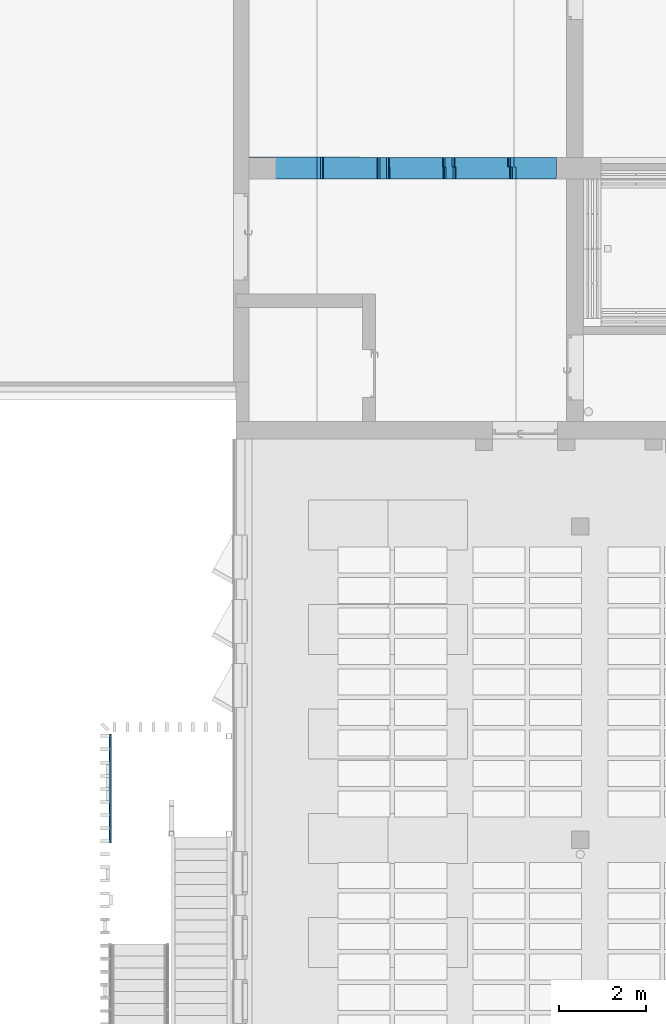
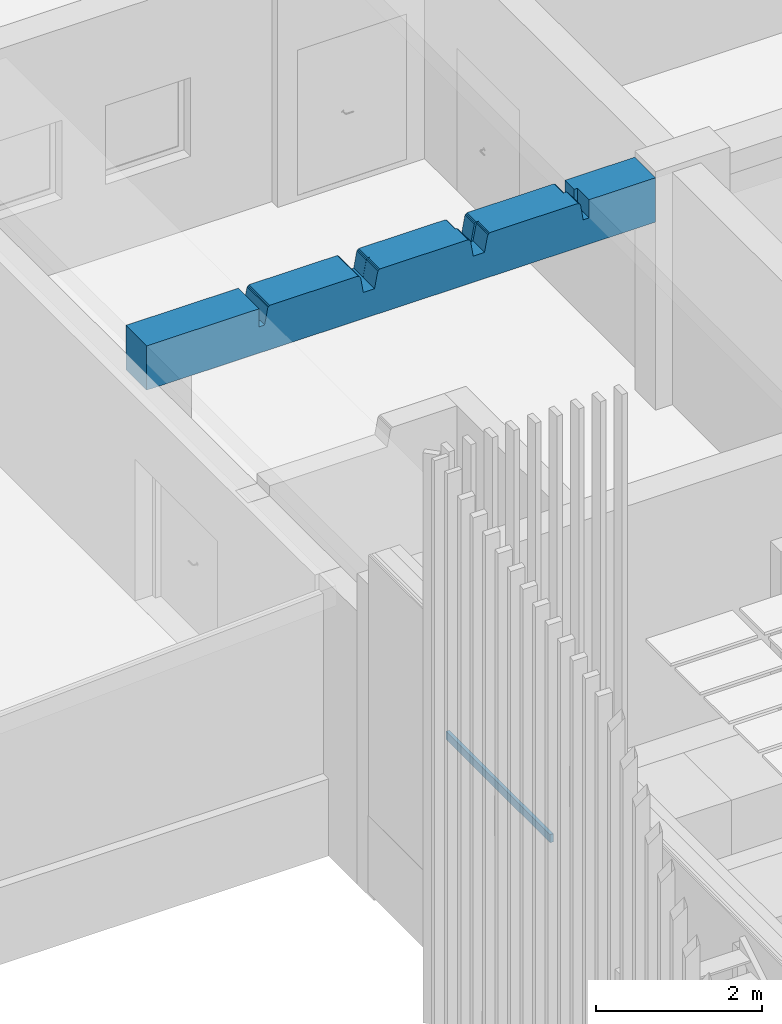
# One storey, part 25 of 301: 2 beams.
"""IFC2X3 building model written with IfcOpenShell, lengths in millimetres."""

from ifc_helpers import new_model, entity, si_unit, converted_unit, derived_unit, money_unit, direction, frame, origin_with_axes, place, context, subcontext, project, spatial, faceted_brep, material, type_object, element, save


model = new_model("IFC2X3")

# Units and contexts
model_context = context("Model", 3, precision=0.01, world=origin_with_axes(), true_north=direction((0.0, 1.0)))
body_context = subcontext(model_context, "Body", "Model", "MODEL_VIEW")
ifc_project = project(units=[si_unit("LENGTHUNIT", "METRE", prefix="MILLI"), si_unit("AREAUNIT", "SQUARE_METRE"), si_unit("VOLUMEUNIT", "CUBIC_METRE"), converted_unit("PLANEANGLEUNIT", "DEGREE", entity("IfcPlaneAngleMeasure", 0.0174532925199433), si_unit("PLANEANGLEUNIT", "RADIAN"), dimensions=[0, 0, 0, 0, 0, 0, 0]), money_unit("EUR"), converted_unit("TIMEUNIT", "Year", entity("IfcTimeMeasure", 31557600.0), si_unit("TIMEUNIT", "SECOND"), dimensions=[0, 0, 1, 0, 0, 0, 0]), si_unit("MASSUNIT", "GRAM", prefix="KILO"), si_unit("THERMODYNAMICTEMPERATUREUNIT", "DEGREE_CELSIUS"), si_unit("LUMINOUSINTENSITYUNIT", "LUMEN"), si_unit("ENERGYUNIT", "JOULE", prefix="MEGA"), derived_unit("THERMALCONDUCTANCEUNIT", [(si_unit("POWERUNIT", "WATT"), 1), (si_unit("LENGTHUNIT", "METRE"), -1), (si_unit("THERMODYNAMICTEMPERATUREUNIT", "KELVIN"), -1)]), derived_unit("SPECIFICHEATCAPACITYUNIT", [(si_unit("ENERGYUNIT", "JOULE"), 1), (si_unit("MASSUNIT", "GRAM", prefix="KILO"), -1), (si_unit("THERMODYNAMICTEMPERATUREUNIT", "KELVIN"), -1)]), derived_unit("MASSDENSITYUNIT", [(si_unit("MASSUNIT", "GRAM", prefix="KILO"), 1), (si_unit("VOLUMEUNIT", "CUBIC_METRE"), -1)])], contexts=[model_context])

# Site, building, storey
site_placement = place(None, frame((0.0, 0.0, 8650.0), z_axis=(0.0, 0.0, 1.0), x_axis=(1.0, 0.0, 0.0)))
site = spatial("IfcSite", under=ifc_project, at=site_placement, Name="43301:001:0844", CompositionType="ELEMENT")
building_placement = place(site_placement, origin_with_axes())
building = spatial("IfcBuilding", under=site, at=building_placement, Name="Kuressaare Ametikooli tuulikute mehaanikute õppekorpus", CompositionType="ELEMENT")
storey_placement = place(building_placement, origin_with_axes())
storey = spatial("IfcBuildingStorey", under=building, at=storey_placement, Name="1.korrus", CompositionType="ELEMENT", Elevation=0.0)

# Beams
ifc_material = material(Name="GENEERILINE - KONSTRUKTRIOON")
beam_type_1 = type_object("IfcBeamType", Name="GENEERILINE - KONSTRUKTRIOON 45 x 120", PredefinedType="NOTDEFINED")
beam_1_placement = place(storey_placement, frame((85046.22662386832, 16502.91808387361, 6497.188198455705), z_axis=(0.0, 0.0, 1.0), x_axis=(1.0, 0.0, 0.0)))
element("IfcBeam", 1, at=beam_1_placement, inside=storey, type_object=beam_type_1, material=ifc_material, Name="Katuslae LP tala", context=body_context, shape_type="Brep", body=[
    faceted_brep([(0.0, 0.0, 0.0), (0.0, 2501.523584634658, 0.0), (45.00000000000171, 2501.523584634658, 0.0), (45.00000000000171, 0.0, 0.0), (0.0, 0.0, 120.0000000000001), (0.0, 2501.523584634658, 120.0000000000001), (45.00000000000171, 2501.523584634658, 120.0000000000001), (45.00000000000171, 0.0, 120.0000000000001)], [[[0, 1, 2, 3]], [[4, 5, 1, 0]], [[2, 1, 5, 6]], [[3, 2, 6, 7]], [[4, 0, 3, 7]], [[7, 6, 5, 4]]]),
])
beam_type_2 = type_object("IfcBeamType", Name="GENEERILINE - KONSTRUKTRIOON 500 x 650", PredefinedType="NOTDEFINED")
beam_2_placement = place(storey_placement, frame((88258.7564468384, 32261.86480873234, 2759.999999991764), z_axis=(0.0, 0.0, 1.0), x_axis=(-0.0009629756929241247, -0.9999995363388, 0.0)))
element("IfcBeam", 2, at=beam_2_placement, inside=storey, type_object=beam_type_2, material=ifc_material, context=body_context, shape_type="Brep", body=[
    faceted_brep([(0.0, 1722.793038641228, 650.0000000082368), (0.0, 1707.57815958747, 647.446023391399), (500.0000000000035, 1708.05964765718, 647.446023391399), (500.0, 1723.274526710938, 650.0000000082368), (0.0, 2951.871632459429, 635.4197032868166), (0.0, 2963.699220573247, 619.641552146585), (0.0, 2969.242431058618, 600.7176357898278), (0.0, 3003.748392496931, 384.9998660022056), (0.0, 3158.545361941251, 384.9998660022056), (0.0, 3199.392768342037, 609.5384224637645), (0.0, 3204.789453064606, 625.7148362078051), (0.0, 3215.574361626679, 638.9241660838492), (0.0, 3230.344252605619, 647.4477253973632), (0.0, 3246.088604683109, 650.0000000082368), (0.0, 4419.069653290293, 650.0000000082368), (0.0, 4437.620198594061, 645.9997277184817), (0.0, 4454.242608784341, 635.2154655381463), (0.0, 4465.950526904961, 619.2301799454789), (0.0, 4471.217025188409, 600.1286460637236), (0.0, 4505.064645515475, 384.9998660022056), (0.0, 4658.794550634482, 384.9998660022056), (0.0, 4699.821777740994, 609.7776392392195), (0.0, 4705.186856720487, 625.6810617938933), (0.0, 4715.762395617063, 638.7141341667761), (0.0, 4730.219885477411, 647.2396297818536), (0.0, 4745.697089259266, 650.0000000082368), (0.0, 5923.60901761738, 650.0000000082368), (0.0, 5942.146731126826, 646.010434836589), (0.0, 5958.77169335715, 635.254400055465), (0.0, 5970.505692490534, 619.3046417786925), (0.0, 5975.825532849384, 600.2316052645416), (0.0, 6009.802231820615, 384.9998660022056), (0.0, 6088.998794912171, 384.9998660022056), (0.0, 6088.998794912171, 650.0000000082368), (0.0, 7057.831064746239, 650.0000000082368), (0.0, 7057.831064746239, 0.0), (0.0, 0.0, 0.0), (0.0, 0.0, 650.0000000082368), (0.0, 1558.996694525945, 650.0000000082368), (0.0, 1558.996694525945, 384.9998660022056), (0.0, 1634.787120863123, 384.9998660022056), (0.0, 1676.634574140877, 611.1866762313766), (0.0, 1682.426857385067, 626.6950206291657), (0.0, 1693.173314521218, 639.2875988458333), (0.0, 2916.804248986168, 650.0000000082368), (0.0, 2935.26196204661, 646.0480083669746), (500.0000000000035, 1693.654802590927, 639.2875988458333), (500.0000000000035, 2952.353120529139, 635.4197032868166), (500.0000000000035, 2935.74345011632, 646.0480083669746), (500.0, 2917.285737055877, 650.0000000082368), (500.0000000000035, 1682.908345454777, 626.6950206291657), (500.0000000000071, 1677.116062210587, 611.1866762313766), (500.0000000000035, 1635.268608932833, 384.9998660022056), (500.0000000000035, 1559.478182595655, 384.9998660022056), (500.0000000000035, 1559.478182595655, 650.0000000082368), (500.0, 0.0, 650.0000000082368), (500.0, 0.0, 0.0), (500.0, 7057.831064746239, 0.0), (500.0, 7057.831064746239, 650.0000000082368), (500.0, 6134.480303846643, 650.0000000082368), (500.0, 6134.480303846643, 384.9998660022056), (500.0000000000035, 6054.231294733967, 384.9998660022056), (500.0, 6019.725333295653, 600.7176357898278), (500.0, 6014.182122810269, 619.641552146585), (500.0, 6002.354534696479, 635.4197032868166), (500.0000000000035, 5985.744864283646, 646.0480083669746), (500.0000000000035, 5967.287151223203, 650.0000000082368), (500.0, 4773.275940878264, 650.0000000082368), (500.0000000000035, 4758.061061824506, 647.446023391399), (500.0000000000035, 4743.656216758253, 639.2875988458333), (500.0000000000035, 4732.909759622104, 626.6950206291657), (500.0, 4727.117476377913, 611.1866762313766), (500.0, 4685.270023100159, 384.9998660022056), (500.0000000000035, 4529.230587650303, 384.9998660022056), (500.0000000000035, 4494.724626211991, 600.7176357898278), (500.0000000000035, 4489.181415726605, 619.641552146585), (500.0000000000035, 4477.353827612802, 635.4197032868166), (500.0, 4460.744157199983, 646.0480083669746), (500.0, 4442.28644413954, 650.0000000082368), (500.0, 3248.275233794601, 650.0000000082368), (500.0000000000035, 3233.060354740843, 647.446023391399), (500.0, 3218.655509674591, 639.2875988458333), (500.0000000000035, 3207.90905253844, 626.6950206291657), (500.0000000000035, 3202.11676929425, 611.1866762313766), (500.0000000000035, 3160.269316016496, 384.9998660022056), (500.0, 3004.229880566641, 384.9998660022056), (500.0, 2969.723919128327, 600.7176357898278), (500.0000000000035, 2964.180708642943, 619.641552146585), (224.4852466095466, 3160.00400188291, 384.9998660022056), (224.4864430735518, 3158.761537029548, 384.9998660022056), (224.4471080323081, 3199.608905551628, 609.5384224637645), (224.4419111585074, 3205.005585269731, 625.7148362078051), (224.4315255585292, 3215.790483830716, 638.9241660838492), (224.4173025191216, 3230.560361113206, 647.4477253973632), (224.4021410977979, 3246.304698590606, 650.0000000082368), (224.4004990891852, 3248.009838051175, 650.0000000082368), (223.2506958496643, 4442.019941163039, 650.0000000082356), (223.2725893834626, 4419.28465946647, 650.0000000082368), (223.2547256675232, 4437.835187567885, 645.9997277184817), (223.2387186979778, 4454.457582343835, 635.2154655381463), (223.2274442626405, 4466.165489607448, 619.2301799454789), (223.2223727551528, 4471.43198300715, 600.1286460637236), (223.1897783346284, 4505.279571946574, 384.9998660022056), (223.1669707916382, 4528.964004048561, 384.9998660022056), (223.0167086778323, 4685.003294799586, 384.9998660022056), (223.0417402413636, 4659.009334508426, 384.9998660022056), (223.0022320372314, 4700.03652356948, 609.7776392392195), (222.9970655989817, 4705.401597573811, 625.6810617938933), (222.986881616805, 4715.977126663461, 638.7141341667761), (222.9729594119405, 4730.434603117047, 647.2396297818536), (222.9580552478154, 4745.911792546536, 650.0000000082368), (222.931961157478, 4773.00913096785, 650.0000000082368), (221.7821579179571, 5967.019234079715, 650.0000000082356), (221.8237552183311, 5923.822628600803, 650.0000000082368), (221.8059038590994, 5942.360324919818, 646.010434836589), (221.7898944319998, 5958.98527173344, 635.254400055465), (221.7785948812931, 5970.719259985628, 619.3046417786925), (221.7734720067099, 5976.039095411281, 600.2316052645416), (221.740753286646, 6010.015762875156, 384.9998660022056), (221.621155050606, 6134.212231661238, 384.9998660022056), (221.6644889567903, 6089.212252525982, 384.9998660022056), (221.698432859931, 6053.963296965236, 384.9998660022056), (221.6644889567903, 6089.212252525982, 650.0000000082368), (221.621155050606, 6134.212231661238, 650.0000000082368), (221.7316612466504, 6019.457367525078, 600.7176357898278), (221.736999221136, 6013.914162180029, 619.641552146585), (221.7483888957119, 6002.086585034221, 635.4197032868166), (221.7643835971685, 5985.476930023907, 646.0480083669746), (222.9466127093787, 4757.794266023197, 647.446023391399), (222.9604842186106, 4743.389434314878, 639.2875988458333), (222.9708327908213, 4732.642987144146, 626.6950206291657), (222.9764106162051, 4726.850709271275, 611.1866762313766), (223.2001991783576, 4494.458074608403, 600.7176357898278), (223.2055371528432, 4488.914869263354, 619.641552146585), (223.2169268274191, 4477.087292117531, 635.4197032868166), (223.2329215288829, 4460.477637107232, 646.0480083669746), (224.415150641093, 3232.794973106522, 647.446023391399), (224.4290221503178, 3218.390141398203, 639.2875988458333), (224.4393707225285, 3207.643694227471, 626.6950206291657), (224.4449485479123, 3201.8514163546, 611.1866762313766)], [[[0, 1, 2, 3]], [[4, 5, 6, 7, 8, 9, 10, 11, 12, 13, 14, 15, 16, 17, 18, 19, 20, 21, 22, 23, 24, 25, 26, 27, 28, 29, 30, 31, 32, 33, 34, 35, 36, 37, 38, 39, 40, 41, 42, 43, 1, 0, 44, 45]], [[43, 46, 2, 1]], [[47, 48, 49, 3, 2, 46, 50, 51, 52, 53, 54, 55, 56, 57, 58, 59, 60, 61, 62, 63, 64, 65, 66, 67, 68, 69, 70, 71, 72, 73, 74, 75, 76, 77, 78, 79, 80, 81, 82, 83, 84, 85, 86, 87]], [[3, 49, 44, 0]], [[4, 47, 87, 5]], [[5, 87, 86, 6]], [[6, 86, 85, 7]], [[7, 85, 84, 88, 89, 8]], [[90, 9, 8, 89]], [[91, 10, 9, 90]], [[92, 11, 10, 91]], [[93, 12, 11, 92]], [[94, 13, 12, 93]], [[94, 95, 79, 78, 96, 97, 14, 13]], [[15, 14, 97, 98]], [[16, 15, 98, 99]], [[17, 16, 99, 100]], [[18, 17, 100, 101]], [[19, 18, 101, 102]], [[20, 19, 102, 103, 73, 72, 104, 105]], [[20, 105, 106, 21]], [[21, 106, 107, 22]], [[22, 107, 108, 23]], [[23, 108, 109, 24]], [[24, 109, 110, 25]], [[26, 25, 110, 111, 67, 66, 112, 113]], [[113, 114, 27, 26]], [[114, 115, 28, 27]], [[115, 116, 29, 28]], [[116, 117, 30, 29]], [[117, 118, 31, 30]], [[119, 120, 32, 31, 118, 121, 61, 60]], [[32, 120, 122, 33]], [[59, 58, 34, 33, 122, 123]], [[34, 58, 57, 35]], [[57, 56, 36, 35]], [[56, 55, 37, 36]], [[55, 54, 38, 37]], [[38, 54, 53, 39]], [[39, 53, 52, 40]], [[40, 52, 51, 41]], [[41, 51, 50, 42]], [[42, 50, 46, 43]], [[44, 49, 48, 45]], [[45, 48, 47, 4]], [[60, 59, 123, 119]], [[61, 121, 124, 62]], [[62, 124, 125, 63]], [[63, 125, 126, 64]], [[64, 126, 127, 65]], [[65, 127, 112, 66]], [[68, 67, 111, 128]], [[129, 69, 68, 128]], [[130, 70, 69, 129]], [[131, 71, 70, 130]], [[104, 72, 71, 131]], [[132, 74, 73, 103]], [[133, 75, 74, 132]], [[134, 76, 75, 133]], [[135, 77, 76, 134]], [[96, 78, 77, 135]], [[95, 136, 80, 79]], [[80, 136, 137, 81]], [[81, 137, 138, 82]], [[82, 138, 139, 83]], [[83, 139, 88, 84]], [[138, 137, 136, 95, 94, 93, 92, 91, 90, 89, 88, 139]], [[135, 134, 133, 132, 103, 102, 101, 100, 99, 98, 97, 96]], [[104, 131, 130, 129, 128, 111, 110, 109, 108, 107, 106, 105]], [[113, 112, 127, 126, 125, 124, 121, 118, 117, 116, 115, 114]], [[119, 123, 122, 120]]]),
])

save(model, "model.ifc")
